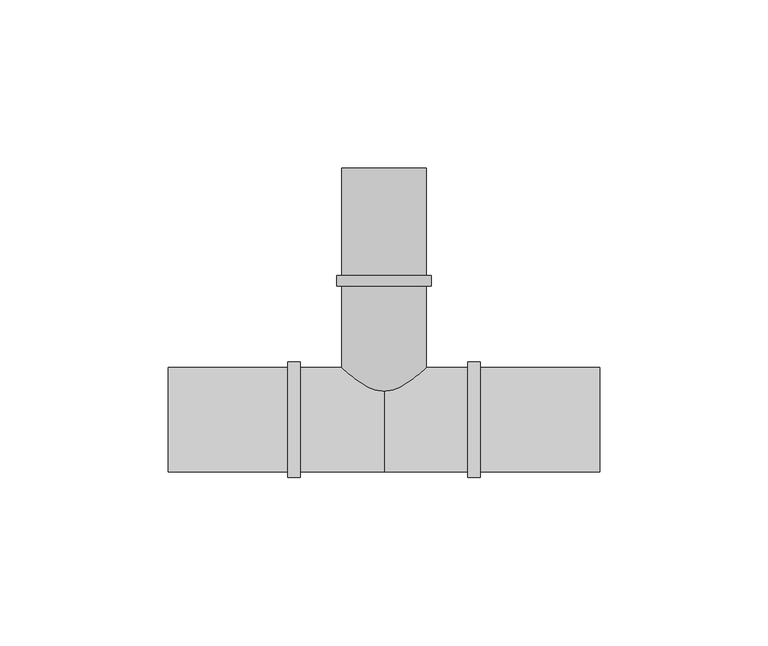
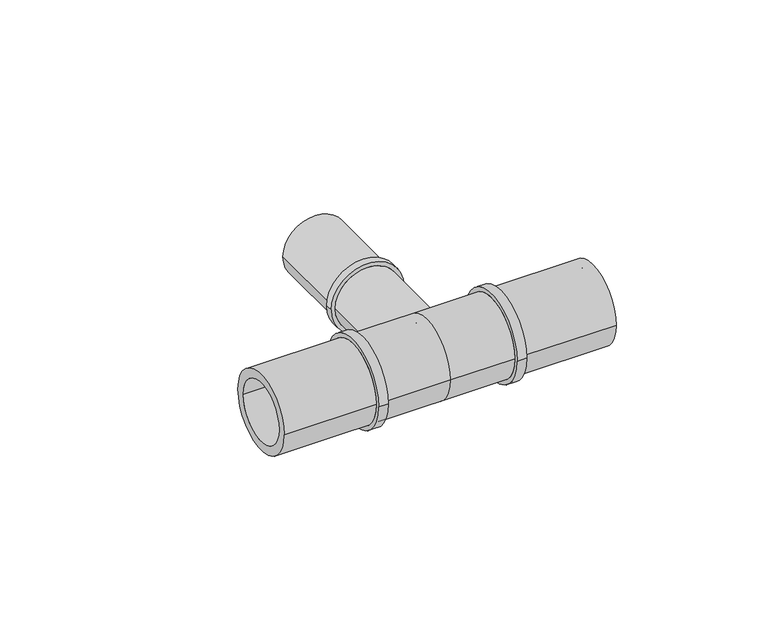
"""IFC4 building model written with IfcOpenShell, lengths in millimetres: pipe fitting geometry, FASTLOC_T-piece_LX : FSL T-Piece LX PL."""

from ifc_helpers import new_model, si_unit, frame, origin, place, context, project, spatial, polyline, circle_curve, source, transform, mapped, element, save
from ifc_brep_helpers import plane_surface, cylinder_surface, revolved_surface, advanced_brep


def pipe_fitting_a3bd5d88(model_context):
    return source(origin(), model_context, "Body", "AdvancedBrep", [
        advanced_brep(
        [(9.85, 74.8, 0.0), (-9.85, 74.8, 0.0), (-9.85, 0.0, 0.0), (9.85, 0.0, 0.0), (12.5, 0.0, 0.0), (-12.5, 0.0, 0.0), (-12.5, 39.8, 0.0), (12.5, 39.8, 0.0), (14.1, 39.8, 0.0), (-14.1, 39.8, 0.0), (-14.1, 42.8, 0.0), (14.1, 42.8, 0.0), (12.5, 42.8, 0.0), (-12.5, 42.8, 0.0), (-12.5, 74.8, 0.0), (12.5, 74.8, 0.0)],
        [
            (0, 1, circle_curve(frame((0.0, 74.8, 0.0), z_axis=(0.0, 1.0, 0.0), x_axis=(-1.0, 0.0, 0.0)), 9.85)),
            (1, 2),
            (2, 3, circle_curve(frame((0.0, 0.0, 0.0), z_axis=(0.0, -1.0, 0.0), x_axis=(-1.0, 0.0, 0.0)), 9.85)),
            (3, 0),
            (4, 5, circle_curve(frame((0.0, 0.0, 0.0), z_axis=(0.0, 1.0, 0.0), x_axis=(-1.0, 0.0, 0.0)), 12.5)),
            (5, 6),
            (6, 7, circle_curve(frame((0.0, 39.8, 0.0), z_axis=(0.0, -1.0, 0.0), x_axis=(-1.0, 0.0, 0.0)), 12.5)),
            (7, 4),
            (8, 9, circle_curve(frame((0.0, 39.8, 0.0), z_axis=(0.0, 1.0, 0.0), x_axis=(-1.0, 0.0, 0.0)), 14.1)),
            (9, 10),
            (10, 11, circle_curve(frame((0.0, 42.8, 0.0), z_axis=(0.0, -1.0, 0.0), x_axis=(-1.0, 0.0, 0.0)), 14.1)),
            (11, 8),
            (12, 13, circle_curve(frame((0.0, 42.8, 0.0), z_axis=(0.0, 1.0, 0.0), x_axis=(-1.0, 0.0, 0.0)), 12.5)),
            (13, 14),
            (14, 15, circle_curve(frame((0.0, 74.8, 0.0), z_axis=(0.0, -1.0, 0.0), x_axis=(-1.0, 0.0, 0.0)), 12.5)),
            (15, 12),
            (1, 0, circle_curve(frame((0.0, 74.8, 0.0), z_axis=(0.0, 1.0, 0.0), x_axis=(1.0, 0.0, 0.0)), 9.85)),
            (3, 2, circle_curve(frame((0.0, 0.0, 0.0), z_axis=(0.0, -1.0, 0.0), x_axis=(1.0, 0.0, 0.0)), 9.85)),
            (4, 5, circle_curve(frame((0.0, 0.0, 0.0), z_axis=(0.0, -1.0, 0.0), x_axis=(1.0, 0.0, 0.0)), 12.5)),
            (7, 6, circle_curve(frame((0.0, 39.8, 0.0), z_axis=(0.0, -1.0, 0.0), x_axis=(1.0, 0.0, 0.0)), 12.5)),
            (8, 9, circle_curve(frame((0.0, 39.8, 0.0), z_axis=(0.0, -1.0, 0.0), x_axis=(1.0, 0.0, 0.0)), 14.1)),
            (11, 10, circle_curve(frame((0.0, 42.8, 0.0), z_axis=(0.0, -1.0, 0.0), x_axis=(1.0, 0.0, 0.0)), 14.1)),
            (12, 13, circle_curve(frame((0.0, 42.8, 0.0), z_axis=(0.0, -1.0, 0.0), x_axis=(1.0, 0.0, 0.0)), 12.5)),
            (15, 14, circle_curve(frame((0.0, 74.8, 0.0), z_axis=(0.0, -1.0, 0.0), x_axis=(1.0, 0.0, 0.0)), 12.5)),
        ],
        [
            revolved_surface(polyline([(-9.85, 0.0, 0.0), (-9.85, 74.8, 0.0)]), (0.0, 0.0, 0.0), (0.0, -1.0, 0.0)),
            cylinder_surface(frame((0.0, 0.0, 0.0), z_axis=(0.0, -1.0, 0.0), x_axis=(-1.0, 0.0, 0.0)), 12.5),
            cylinder_surface(frame((0.0, 0.0, 0.0), z_axis=(0.0, -1.0, 0.0), x_axis=(-1.0, 0.0, 0.0)), 14.1),
            revolved_surface(polyline([(9.85, 0.0, 0.0), (9.85, 74.8, 0.0)]), (0.0, 0.0, 0.0), (0.0, -1.0, 0.0)),
            plane_surface(frame((0.0, 0.0, 0.0), z_axis=(0.0, -1.0, 0.0), x_axis=(1.0, 0.0, 0.0))),
            cylinder_surface(frame((0.0, 0.0, 0.0), z_axis=(0.0, -1.0, 0.0), x_axis=(1.0, 0.0, 0.0)), 12.5),
            plane_surface(frame((0.0, 39.8, 0.0), z_axis=(0.0, -1.0, 0.0), x_axis=(1.0, 0.0, 0.0))),
            cylinder_surface(frame((0.0, 0.0, 0.0), z_axis=(0.0, -1.0, 0.0), x_axis=(1.0, 0.0, 0.0)), 14.1),
            plane_surface(frame((0.0, 42.8, 0.0), z_axis=(0.0, 1.0, 0.0), x_axis=(1.0, 0.0, 0.0))),
            plane_surface(frame((0.0, 74.8, 0.0), z_axis=(0.0, 1.0, 0.0), x_axis=(1.0, 0.0, 0.0))),
        ],
        [
            (0, [[1, 2, 3, 4]]),
            (1, [[5, 6, 7, 8]]),
            (2, [[9, 10, 11, 12]]),
            (1, [[13, 14, 15, 16]]),
            (3, [[17, -4, 18, -2]]),
            (4, [[19, -5], [-18, -3]]),
            (5, [[-19, -8, 20, -6]]),
            (6, [[21, -9], [-20, -7]]),
            (7, [[-21, -12, 22, -10]]),
            (8, [[-22, -11], [23, -13]]),
            (5, [[-23, -16, 24, -14]]),
            (9, [[-24, -15], [-17, -1]]),
        ],
    ),
        advanced_brep(
        [(0.0, 15.5, 0.0), (0.0, -15.5, 0.0), (-24.9, -15.5, 0.0), (-24.9, 15.5, 0.0), (24.9, 15.5, 0.0), (24.9, -15.5, 0.0), (28.6, 17.2, 0.0), (28.6, -17.2, 0.0), (24.9, -17.2, 0.0), (24.9, 17.2, 0.0), (64.1, 15.5, 0.0), (64.1, -15.5, 0.0), (28.6, -15.5, 0.0), (28.6, 15.5, 0.0), (-28.6, 15.5, 0.0), (-28.6, -15.5, 0.0), (-64.1, -15.5, 0.0), (-64.1, 15.5, 0.0), (-24.9, 17.2, 0.0), (-24.9, -17.2, 0.0), (-28.6, -17.2, 0.0), (-28.6, 17.2, 0.0), (64.1, -11.95, 0.0), (64.1, 11.95, 0.0), (-64.1, 11.95, 0.0), (-64.1, -11.95, 0.0), (0.0, 11.95, 0.0), (0.0, -11.95, 0.0)],
        [
            (0, 1, circle_curve(frame((0.0, 0.0, 0.0), z_axis=(-1.0, 0.0, 0.0), x_axis=(0.0, -1.0, 0.0)), 15.5)),
            (1, 2),
            (2, 3, circle_curve(frame((-24.9, 0.0, 0.0), z_axis=(1.0, 0.0, 0.0), x_axis=(0.0, -1.0, 0.0)), 15.5)),
            (3, 0),
            (4, 5, circle_curve(frame((24.9, 0.0, 0.0), z_axis=(-1.0, 0.0, 0.0), x_axis=(0.0, -1.0, 0.0)), 15.5)),
            (5, 1),
            (0, 4),
            (6, 7, circle_curve(frame((28.6, 0.0, 0.0), z_axis=(-1.0, 0.0, 0.0), x_axis=(0.0, -1.0, 0.0)), 17.2)),
            (7, 8),
            (8, 9, circle_curve(frame((24.9, 0.0, 0.0), z_axis=(1.0, 0.0, 0.0), x_axis=(0.0, -1.0, 0.0)), 17.2)),
            (9, 6),
            (10, 11, circle_curve(frame((64.1, 0.0, 0.0), z_axis=(-1.0, 0.0, 0.0), x_axis=(0.0, -1.0, 0.0)), 15.5)),
            (11, 12),
            (12, 13, circle_curve(frame((28.6, 0.0, 0.0), z_axis=(1.0, 0.0, 0.0), x_axis=(0.0, -1.0, 0.0)), 15.5)),
            (13, 10),
            (14, 15, circle_curve(frame((-28.6, 0.0, 0.0), z_axis=(-1.0, 0.0, 0.0), x_axis=(0.0, -1.0, 0.0)), 15.5)),
            (15, 16),
            (16, 17, circle_curve(frame((-64.1, 0.0, 0.0), z_axis=(1.0, 0.0, 0.0), x_axis=(0.0, -1.0, 0.0)), 15.5)),
            (17, 14),
            (18, 19, circle_curve(frame((-24.9, 0.0, 0.0), z_axis=(-1.0, 0.0, 0.0), x_axis=(0.0, -1.0, 0.0)), 17.2)),
            (19, 20),
            (20, 21, circle_curve(frame((-28.6, 0.0, 0.0), z_axis=(1.0, 0.0, 0.0), x_axis=(0.0, -1.0, 0.0)), 17.2)),
            (21, 18),
            (18, 19, circle_curve(frame((-24.9, 0.0, 0.0), z_axis=(1.0, 0.0, 0.0), x_axis=(0.0, 1.0, 0.0)), 17.2)),
            (2, 3, circle_curve(frame((-24.9, 0.0, 0.0), z_axis=(-1.0, 0.0, 0.0), x_axis=(0.0, 1.0, 0.0)), 15.5)),
            (1, 0, circle_curve(frame((0.0, 0.0, 0.0), z_axis=(-1.0, 0.0, 0.0), x_axis=(0.0, 1.0, 0.0)), 15.5)),
            (5, 4, circle_curve(frame((24.9, 0.0, 0.0), z_axis=(-1.0, 0.0, 0.0), x_axis=(0.0, 1.0, 0.0)), 15.5)),
            (8, 9, circle_curve(frame((24.9, 0.0, 0.0), z_axis=(-1.0, 0.0, 0.0), x_axis=(0.0, 1.0, 0.0)), 17.2)),
            (7, 6, circle_curve(frame((28.6, 0.0, 0.0), z_axis=(-1.0, 0.0, 0.0), x_axis=(0.0, 1.0, 0.0)), 17.2)),
            (12, 13, circle_curve(frame((28.6, 0.0, 0.0), z_axis=(-1.0, 0.0, 0.0), x_axis=(0.0, 1.0, 0.0)), 15.5)),
            (11, 10, circle_curve(frame((64.1, 0.0, 0.0), z_axis=(-1.0, 0.0, 0.0), x_axis=(0.0, 1.0, 0.0)), 15.5)),
            (22, 23, circle_curve(frame((64.1, 0.0, 0.0), z_axis=(-1.0, 0.0, 0.0), x_axis=(0.0, 1.0, 0.0)), 11.95)),
            (23, 22, circle_curve(frame((64.1, 0.0, 0.0), z_axis=(-1.0, 0.0, 0.0), x_axis=(0.0, -1.0, 0.0)), 11.95)),
            (16, 17, circle_curve(frame((-64.1, 0.0, 0.0), z_axis=(-1.0, 0.0, 0.0), x_axis=(0.0, 1.0, 0.0)), 15.5)),
            (24, 25, circle_curve(frame((-64.1, 0.0, 0.0), z_axis=(1.0, 0.0, 0.0), x_axis=(0.0, 1.0, 0.0)), 11.95)),
            (25, 24, circle_curve(frame((-64.1, 0.0, 0.0), z_axis=(1.0, 0.0, 0.0), x_axis=(0.0, -1.0, 0.0)), 11.95)),
            (15, 14, circle_curve(frame((-28.6, 0.0, 0.0), z_axis=(-1.0, 0.0, 0.0), x_axis=(0.0, 1.0, 0.0)), 15.5)),
            (20, 21, circle_curve(frame((-28.6, 0.0, 0.0), z_axis=(-1.0, 0.0, 0.0), x_axis=(0.0, 1.0, 0.0)), 17.2)),
            (26, 27, circle_curve(frame((0.0, 0.0, 0.0), z_axis=(-1.0, 0.0, 0.0), x_axis=(0.0, -1.0, 0.0)), 11.95)),
            (27, 22),
            (23, 26),
            (25, 27),
            (26, 24),
            (27, 26, circle_curve(frame((0.0, 0.0, 0.0), z_axis=(-1.0, 0.0, 0.0), x_axis=(0.0, 1.0, 0.0)), 11.95)),
        ],
        [
            cylinder_surface(frame((0.0, 0.0, 0.0), z_axis=(1.0, 0.0, 0.0), x_axis=(0.0, -1.0, 0.0)), 15.5),
            cylinder_surface(frame((0.0, 0.0, 0.0), z_axis=(1.0, 0.0, 0.0), x_axis=(0.0, -1.0, 0.0)), 17.2),
            plane_surface(frame((-24.9, 0.0, 0.0), z_axis=(1.0, 0.0, 0.0), x_axis=(0.0, 1.0, 0.0))),
            cylinder_surface(frame((0.0, 0.0, 0.0), z_axis=(1.0, 0.0, 0.0), x_axis=(0.0, 1.0, 0.0)), 15.5),
            plane_surface(frame((24.9, 0.0, 0.0), z_axis=(-1.0, 0.0, 0.0), x_axis=(0.0, 1.0, 0.0))),
            cylinder_surface(frame((0.0, 0.0, 0.0), z_axis=(1.0, 0.0, 0.0), x_axis=(0.0, 1.0, 0.0)), 17.2),
            plane_surface(frame((28.6, 0.0, 0.0), z_axis=(1.0, 0.0, 0.0), x_axis=(0.0, 1.0, 0.0))),
            plane_surface(frame((64.1, 0.0, 0.0), z_axis=(1.0, 0.0, 0.0), x_axis=(0.0, 1.0, 0.0))),
            plane_surface(frame((-64.1, 0.0, 0.0), z_axis=(-1.0, 0.0, 0.0), x_axis=(0.0, 1.0, 0.0))),
            plane_surface(frame((-28.6, 0.0, 0.0), z_axis=(-1.0, 0.0, 0.0), x_axis=(0.0, 1.0, 0.0))),
            revolved_surface(polyline([(64.1, -11.95, 0.0), (0.0, -11.95, 0.0)]), (0.0, 0.0, 0.0), (1.0, 0.0, 0.0)),
            revolved_surface(polyline([(0.0, -11.95, 0.0), (-64.1, -11.95, 0.0)]), (0.0, 0.0, 0.0), (1.0, 0.0, 0.0)),
            revolved_surface(polyline([(64.1, 11.95, 0.0), (0.0, 11.95, 0.0)]), (0.0, 0.0, 0.0), (1.0, 0.0, 0.0)),
            revolved_surface(polyline([(0.0, 11.95, 0.0), (-64.1, 11.95, 0.0)]), (0.0, 0.0, 0.0), (1.0, 0.0, 0.0)),
        ],
        [
            (0, [[1, 2, 3, 4]]),
            (0, [[5, 6, -1, 7]]),
            (1, [[8, 9, 10, 11]]),
            (0, [[12, 13, 14, 15]]),
            (0, [[16, 17, 18, 19]]),
            (1, [[20, 21, 22, 23]]),
            (2, [[24, -20], [25, -3]]),
            (3, [[26, -4, -25, -2]]),
            (3, [[27, -7, -26, -6]]),
            (4, [[28, -10], [-27, -5]]),
            (5, [[29, -11, -28, -9]]),
            (6, [[-29, -8], [30, -14]]),
            (3, [[31, -15, -30, -13]]),
            (7, [[-31, -12], [32, 33]]),
            (8, [[34, -18], [35, 36]]),
            (3, [[37, -19, -34, -17]]),
            (9, [[38, -22], [-37, -16]]),
            (5, [[-24, -23, -38, -21]]),
            (10, [[39, 40, -33, 41]]),
            (11, [[-36, 42, -39, 43]]),
            (12, [[44, -41, -32, -40]]),
            (13, [[-35, -43, -44, -42]]),
        ],
    ),
    ])


if __name__ == "__main__":
    model = new_model("IFC4")
    model_context = context("Model", 3, world=origin())
    ifc_project = project(units=[si_unit("LENGTHUNIT", "METRE", prefix="MILLI")], contexts=[model_context])
    site = spatial("IfcSite", under=ifc_project)
    building = spatial("IfcBuilding", under=site)
    placement = place(None, origin())
    pipe_fitting_shape = pipe_fitting_a3bd5d88(model_context)
    element("IfcPipeFitting", 1, ObjectType="FASTLOC_T-piece_LX : FSL T-Piece LX PL", at=placement, inside=building, context=model_context, shape_type="MappedRepresentation", body=[
        mapped(pipe_fitting_shape, transform((0.0, 0.0, 0.0), x_axis=(1.0, 0.0, 0.0), y_axis=(0.0, 1.0, 0.0), z_axis=(0.0, 0.0, 1.0))),
    ])
    save(model, "model.ifc")
